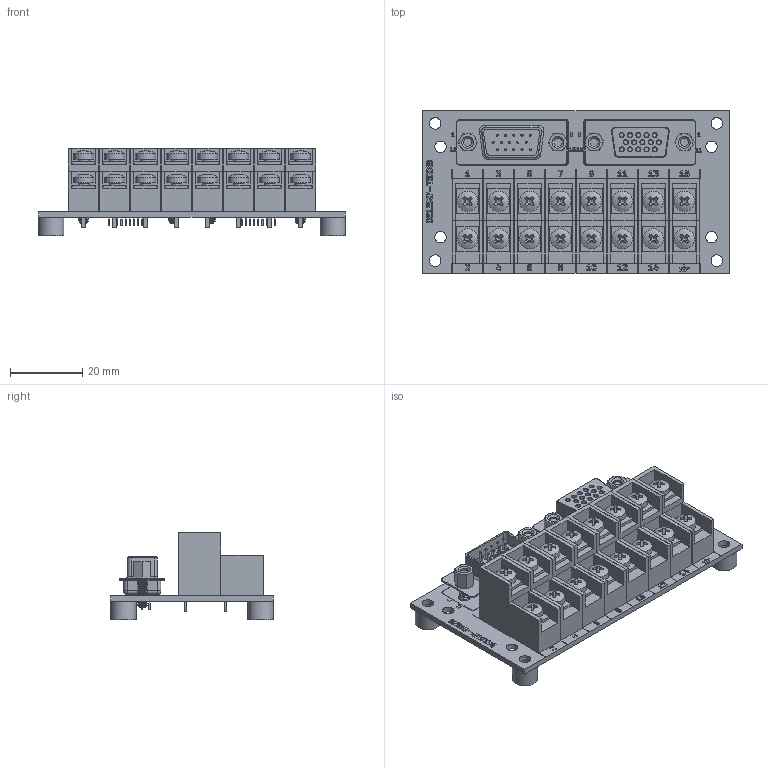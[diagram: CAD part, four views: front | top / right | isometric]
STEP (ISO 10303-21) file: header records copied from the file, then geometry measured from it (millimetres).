
FILE_DESCRIPTION(('FreeCAD Model'),'2;1');
FILE_NAME('C:/ws/KiCad/interface-terminal-converter/dsub15_3row-terminal/latest/dsub15_3row-terminal/step/de15mf-tb2x8_direct_step.step','2020-12-24T22:45:27',('Author'),(''), 'Open CASCADE STEP processor 7.3','FreeCAD','Unknown');
FILE_SCHEMA(('AUTOMOTIVE_DESIGN { 1 0 10303 214 1 1 1 1 }'));
Length unit declared in the file: millimetre
Products named in the file (34): dsub15_3row-terminal_direct; Board_Geoms_5343; Local_CS_5343; Pcb_5343; PCB_Sketch_5343; botSilks_c3bf; topSilks_279; Step_Models_5343; Top_5343; J2_DSUB-15-HD_Male_Vertical_P2.29x1.98mm_MountingHoles_5FBDF68D; J2_74m9499_5205818-2_5FBDF68D[2]; J2_74m9499_5205818-2_5FBDF68D[3]; J1_DSUB-15-HD_Female_Vertical_P2.29x1.98mm_MountingHoles_5FBE5684; J1_74m9499_5205818-2_5FBE5684[2]; J1_74m9499_5205818-2_5FBE5684[3]; TB1_KF8500HL-8.5-1P_5FC1E011; TB1_KF8500HL-8.5-1P_5FC1E011[2]; TB1_KF8500HL-8.5-1P_5FC1E011[3]; TB1_KF8500HL-8.5-1P_5FC1E011[4]; TB1_KF8500HL-8.5-1P_5FC1E011[5]; TB1_KF8500HL-8.5-1P_5FC1E011[6]; TB1_KF8500HL-8.5-1P_5FC1E011[7]; TB1_KF8500HL-8.5-1P_5FC1E011[8]; Step_Virtual_Models_5343; BotV_5343; H1_Body_5FC5C8E0; H2_Body_5FC5C8E7; H3_Body_5FC5C8EE; H4_Body_5FC5C8F5
Assembly tree (53 placements, depth 4):
  dsub15_3row-terminal_direct
    Board_Geoms_5343
      Local_CS_5343
      Pcb_5343
      PCB_Sketch_5343
      botSilks_c3bf
      topSilks_279
    Step_Models_5343
      Top_5343
        J2_DSUB-15-HD_Male_Vertical_P2.29x1.98mm_MountingHoles_5FBDF68D
        J2_74m9499_5205818-2_5FBDF68D[2]
        J2_74m9499_5205818-2_5FBDF68D[3]
        J1_DSUB-15-HD_Female_Vertical_P2.29x1.98mm_MountingHoles_5FBE5684
        J1_74m9499_5205818-2_5FBE5684[2]
        J1_74m9499_5205818-2_5FBE5684[3]
        TB1_KF8500HL-8.5-1P_5FC1E011
        TB1_KF8500HL-8.5-1P_5FC1E011[2]
        TB1_KF8500HL-8.5-1P_5FC1E011[3]
        TB1_KF8500HL-8.5-1P_5FC1E011[4]
        TB1_KF8500HL-8.5-1P_5FC1E011[5]
        TB1_KF8500HL-8.5-1P_5FC1E011[6]
        TB1_KF8500HL-8.5-1P_5FC1E011[7]
        TB1_KF8500HL-8.5-1P_5FC1E011[8]
    Step_Virtual_Models_5343
      BotV_5343
        H1_Body_5FC5C8E0
        H2_Body_5FC5C8E7
        H3_Body_5FC5C8EE
        H4_Body_5FC5C8F5
  Step_Models_5343
    Top_5343
      J2_DSUB-15-HD_Male_Vertical_P2.29x1.98mm_MountingHoles_5FBDF68D
      J2_74m9499_5205818-2_5FBDF68D[2]
      J2_74m9499_5205818-2_5FBDF68D[3]
      J1_DSUB-15-HD_Female_Vertical_P2.29x1.98mm_MountingHoles_5FBE5684
      J1_74m9499_5205818-2_5FBE5684[2]
      J1_74m9499_5205818-2_5FBE5684[3]
      TB1_KF8500HL-8.5-1P_5FC1E011
      TB1_KF8500HL-8.5-1P_5FC1E011[2]
      TB1_KF8500HL-8.5-1P_5FC1E011[3]
      TB1_KF8500HL-8.5-1P_5FC1E011[4]
      TB1_KF8500HL-8.5-1P_5FC1E011[5]
      TB1_KF8500HL-8.5-1P_5FC1E011[6]
      TB1_KF8500HL-8.5-1P_5FC1E011[7]
      TB1_KF8500HL-8.5-1P_5FC1E011[8]
  Step_Virtual_Models_5343
    BotV_5343
      H1_Body_5FC5C8E0
      H2_Body_5FC5C8E7
      H3_Body_5FC5C8EE
      H4_Body_5FC5C8F5
  Board_Geoms_5343
    Local_CS_5343
    Pcb_5343
    PCB_Sketch_5343
    botSilks_c3bf
    topSilks_279
Bounding box: 85 x 45 x 24.1 mm (x, y, z)
Volume: 57211.6 mm3; surface area: 62262.2 mm2
Topology: 170 solids, 380 shells, 3544 faces, 35536 edges, 32686 vertices
Faces by surface type: plane 2054, cylinder 746, cone 406, revolution 138, bspline 96, torus 56, sphere 48
Full cylindrical faces by diameter (mm): 0.3 x60, 0.6 x60, 1 x60, 1.2 x30, 1.5 x32, 2.5 x32, 3 x32, 3.2 x64, 3.3 x8, 5.6 x32, 7 x8
Entity records: 183639 total; most frequent: CARTESIAN_POINT 49460, DIRECTION 22542, ORIENTED_EDGE 21627, EDGE_CURVE 17728, VERTEX_POINT 16337, LINE 15737, VECTOR 15737, AXIS2_PLACEMENT_3D 3368
